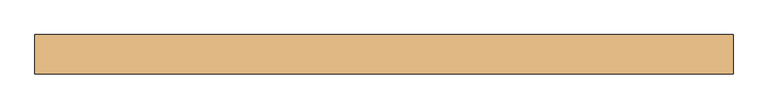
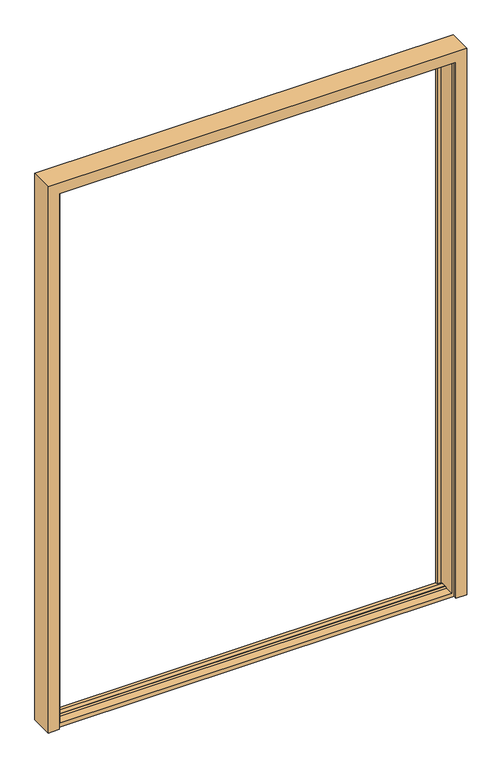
"""IFC4 building model written with IfcOpenShell, lengths in millimetres: door geometry, Dvokrilna vrata : Dvokrilna vrata."""

from ifc_helpers import new_model, si_unit, frame, origin, place, context, project, spatial, circle_curve, source, transform, mapped, element, save
from ifc_brep_helpers import plane_surface, cylinder_surface, advanced_brep


def door_1983d042(model_context):
    return source(origin(), model_context, "Body", "AdvancedBrep", [
        advanced_brep(
        [(-748.4976428, -12.9989266, 10.0), (-748.4976428, -25.0, 10.0), (-790.0, -25.0, 10.0), (-790.0, 63.4929267, 10.0), (790.0, 63.4929267, 10.0), (790.0, -25.0, 10.0), (748.4976428, -25.0, 10.0), (748.4976428, -12.9989266, 10.0), (-748.4976428, -12.9989266, 2148.4976428), (-748.4976428, -25.0, 2148.4976428), (748.4976428, -25.0, 2148.4976428), (790.0, -25.0, 2190.0), (-790.0, -25.0, 2190.0), (-790.0, 63.4929267, 2190.0), (790.0, 63.4929267, 2190.0), (-723.5001132, 63.4929267, 2123.5001132), (-723.5001132, 63.4929267, 25.6983046), (723.5001132, 63.4929267, 25.6983046), (723.5001132, 63.4929267, 2123.5001132), (748.4976428, -12.9989266, 2148.4976428), (738.997643, -12.9989266, 2138.997643), (738.997643, -12.9989266, 25.5020091), (-738.997643, -12.9989266, 25.5020091), (-738.997643, -12.9989266, 2138.997643), (-723.5001132, 55.091238, 2123.5001132), (723.5001132, 55.091238, 2123.5001132), (723.5001132, 55.091238, 27.2137298), (738.997643, 55.091238, 27.2137298), (738.997643, 55.091238, 2138.997643), (-738.997643, 55.091238, 2138.997643), (-738.997643, 55.091238, 27.2137298), (-723.5001132, 55.091238, 27.2137298), (-738.997643, 48.6386736, 28.3775885), (738.997643, 48.6386736, 28.3775885), (738.997643, 28.1482433, 30.02273), (738.997643, 26.3346386, 29.5983726), (738.997643, 19.5852901, 25.5020091), (-738.997643, 19.5852901, 25.5020091), (-738.997643, 26.3346386, 29.5983726), (-738.997643, 28.1482433, 30.02273)],
        [
            (0, 1),
            (1, 2),
            (2, 3),
            (3, 4),
            (4, 5),
            (5, 6),
            (6, 7),
            (7, 0),
            (0, 8),
            (8, 9),
            (9, 1),
            (9, 10),
            (10, 6),
            (5, 11),
            (11, 12),
            (12, 2),
            (13, 3),
            (12, 13),
            (13, 14),
            (14, 4),
            (15, 16),
            (16, 17),
            (17, 18),
            (18, 15),
            (14, 11),
            (10, 19),
            (19, 7),
            (19, 8),
            (20, 21),
            (21, 22),
            (22, 23),
            (23, 20),
            (24, 25),
            (25, 26),
            (26, 27),
            (27, 28),
            (28, 29),
            (29, 30),
            (30, 31),
            (31, 24),
            (15, 24),
            (31, 16),
            (30, 32),
            (32, 33),
            (33, 27),
            (26, 17),
            (25, 18),
            (20, 28),
            (33, 34),
            (34, 35, circle_curve(frame((738.997643, 27.891169, 27.0337648), z_axis=(1.0, 0.0, 0.0), x_axis=(0.0, -0.5188434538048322, 0.8548692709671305)), 3.0)),
            (35, 36),
            (36, 21),
            (29, 23),
            (22, 37),
            (37, 38),
            (38, 39, circle_curve(frame((-738.997643, 27.891169, 27.0337648), z_axis=(-1.0, 0.0, 0.0), x_axis=(0.0, -0.5188434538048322, 0.8548692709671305)), 3.0)),
            (39, 32),
            (36, 37),
            (35, 38),
            (34, 39),
        ],
        [
            plane_surface(frame((-790.0, -25.0, 10.0), z_axis=(0.0, 0.0, -1.0), x_axis=(0.0, -1.0, 0.0))),
            plane_surface(frame((-748.4976428, -12.9989266, 10.0), z_axis=(1.0, 0.0, 0.0), x_axis=(0.0, 0.0, 1.0))),
            plane_surface(frame((-748.4976428, -25.0, 10.0), z_axis=(0.0, -1.0, 0.0), x_axis=(0.0, 0.0, 1.0))),
            plane_surface(frame((-790.0, -25.0, 10.0), z_axis=(-1.0, 0.0, 0.0), x_axis=(0.0, 0.0, 1.0))),
            plane_surface(frame((-790.0, 63.4929267, 10.0), z_axis=(0.0, 1.0, 0.0), x_axis=(0.0, 0.0, 1.0))),
            plane_surface(frame((790.0, -25.0, 2190.0), z_axis=(1.0, 0.0, 0.0), x_axis=(0.0, 0.0, -1.0))),
            plane_surface(frame((748.4976428, -12.9989266, 2148.4976428), z_axis=(-1.0, 0.0, 0.0), x_axis=(0.0, 0.0, -1.0))),
            plane_surface(frame((-738.997643, -12.9989266, 10.0), z_axis=(0.0, -1.0, 0.0), x_axis=(0.0, 0.0, 1.0))),
            plane_surface(frame((-723.5001132, 55.091238, 10.0), z_axis=(0.0, -1.0, 0.0), x_axis=(0.0, 0.0, 1.0))),
            plane_surface(frame((-723.5001132, 63.4929267, 10.0), z_axis=(1.0, 0.0, 0.0), x_axis=(0.0, 0.0, 1.0))),
            plane_surface(frame((-790.0, 48.6386736, 28.3775885), z_axis=(0.0, 0.17750711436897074, 0.9841195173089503), x_axis=(1.0, 0.0, 0.0))),
            plane_surface(frame((723.5001132, 63.4929267, 2123.5001132), z_axis=(-1.0, 0.0, 0.0), x_axis=(0.0, 0.0, -1.0))),
            plane_surface(frame((738.997643, 55.091238, 2138.997643), z_axis=(-1.0, 0.0, 0.0), x_axis=(0.0, 0.0, -1.0))),
            plane_surface(frame((-738.997643, 55.091238, 10.0), z_axis=(1.0, 0.0, 0.0), x_axis=(0.0, 0.0, 1.0))),
            plane_surface(frame((-790.0, -13.0023491, 25.5020091), z_axis=(0.0, 0.0, 1.0), x_axis=(1.0, 0.0, 0.0))),
            plane_surface(frame((-790.0, 19.5852901, 25.5020091), z_axis=(0.0, -0.5188434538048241, 0.8548692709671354), x_axis=(1.0, 0.0, 0.0))),
            cylinder_surface(frame((-790.0, 27.891169, 27.0337648), z_axis=(-1.0000000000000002, 0.0, 0.0), x_axis=(0.0, -0.5188434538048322, 0.8548692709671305)), 3.0),
            plane_surface(frame((-790.0, 28.1482433, 30.02273), z_axis=(0.0, 0.08003075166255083, 0.9967923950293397), x_axis=(1.0, 0.0, 0.0))),
            plane_surface(frame((-723.5001132, 63.4929267, 2123.5001132), z_axis=(0.0, 0.0, -1.0), x_axis=(1.0, 0.0, 0.0))),
            plane_surface(frame((-738.997643, 55.091238, 2138.997643), z_axis=(0.0, 0.0, -1.0), x_axis=(1.0, 0.0, 0.0))),
            plane_surface(frame((-748.4976428, -12.9989266, 2148.4976428), z_axis=(0.0, 0.0, -1.0), x_axis=(1.0, 0.0, 0.0))),
            plane_surface(frame((-790.0, -25.0, 2190.0), z_axis=(0.0, 0.0, 1.0), x_axis=(1.0, 0.0, 0.0))),
        ],
        [
            (0, [[1, 2, 3, 4, 5, 6, 7, 8]]),
            (1, [[-1, 9, 10, 11]]),
            (2, [[-2, -11, 12, 13, -6, 14, 15, 16]]),
            (3, [[17, -3, -16, 18]]),
            (4, [[-4, -17, 19, 20], [21, 22, 23, 24]]),
            (5, [[-14, -5, -20, 25]]),
            (6, [[-13, 26, 27, -7]]),
            (7, [[-8, -27, 28, -9], [29, 30, 31, 32]]),
            (8, [[33, 34, 35, 36, 37, 38, 39, 40]]),
            (9, [[41, -40, 42, -21]]),
            (10, [[-22, -42, -39, 43, 44, 45, -35, 46]]),
            (11, [[47, -23, -46, -34]]),
            (12, [[48, -36, -45, 49, 50, 51, 52, -29]]),
            (13, [[53, -31, 54, 55, 56, 57, -43, -38]]),
            (14, [[-30, -52, 58, -54]]),
            (15, [[59, -55, -58, -51]]),
            (16, [[-59, -50, 60, -56]]),
            (17, [[-44, -57, -60, -49]]),
            (18, [[-41, -24, -47, -33]]),
            (19, [[-37, -48, -32, -53]]),
            (20, [[-28, -26, -12, -10]]),
            (21, [[-15, -25, -19, -18]]),
        ],
    ),
    ])


if __name__ == "__main__":
    model = new_model("IFC4")
    model_context = context("Model", 3, world=origin())
    ifc_project = project(units=[si_unit("LENGTHUNIT", "METRE", prefix="MILLI")], contexts=[model_context])
    site = spatial("IfcSite", under=ifc_project)
    building = spatial("IfcBuilding", under=site)
    placement = place(None, origin())
    door_shape = door_1983d042(model_context)
    element("IfcDoor", 1, ObjectType="Dvokrilna vrata : Dvokrilna vrata", at=placement, inside=building, context=model_context, shape_type="MappedRepresentation", body=[
        mapped(door_shape, transform((0.0, 0.0, 0.0), x_axis=(1.0, 0.0, 0.0), y_axis=(0.0, 1.0, 0.0), z_axis=(0.0, 0.0, 1.0))),
    ])
    save(model, "model.ifc")
